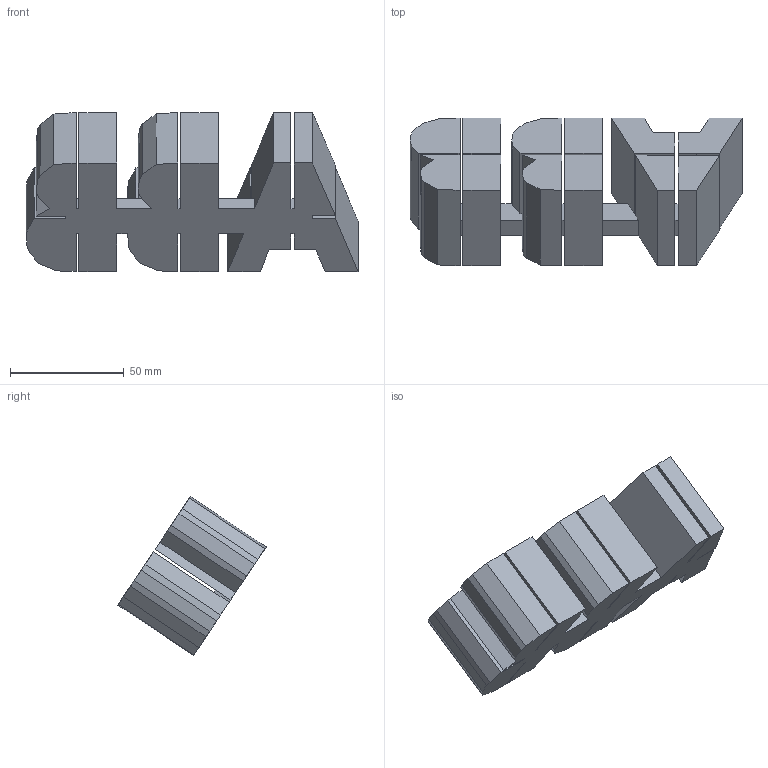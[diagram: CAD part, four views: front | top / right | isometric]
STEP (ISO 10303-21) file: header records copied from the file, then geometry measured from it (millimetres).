
FILE_DESCRIPTION (( 'STEP AP214' ), '1' );
FILE_NAME ('IRB4400_60-195_IRC5_rev02_LOGO03_CAD.STEP', '2016-11-03T06:48:45', ( 'ABB' ), ( 'ABB' ), 'SwSTEP 2.0', 'SolidWorks 2014', '' );
FILE_SCHEMA (( 'AUTOMOTIVE_DESIGN' ));
Length unit declared in the file: millimetre
Products named in the file (1): IRB4400_60-195_IRC5_rev02_LOGO03_CAD
Bounding box: 146.13 x 65.18 x 69.99 mm (x, y, z)
Volume: 224238.7 mm3; surface area: 53564 mm2
Topology: 1 solids, 1 shells, 104 faces, 299 edges, 197 vertices
Faces by surface type: plane 104
Entity records: 3361 total; most frequent: CARTESIAN_POINT 601, ORIENTED_EDGE 598, DIRECTION 509, LINE 299, EDGE_CURVE 299, VECTOR 299, VERTEX_POINT 197, AXIS2_PLACEMENT_3D 105
